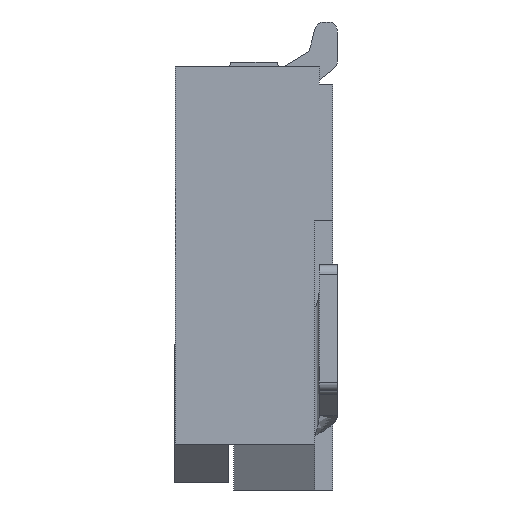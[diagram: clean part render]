
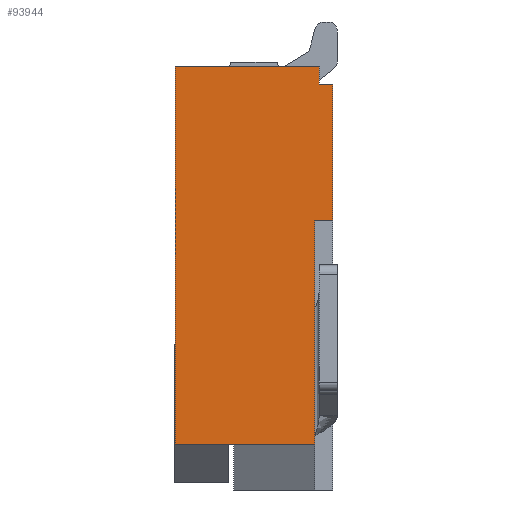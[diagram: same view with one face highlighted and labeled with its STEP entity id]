
A CAD part, left-side view. The second image highlights one B-rep face of the part: STEP entity #93944.
In plain terms, the highlighted planar face has unit normal (-1, 0, 0).
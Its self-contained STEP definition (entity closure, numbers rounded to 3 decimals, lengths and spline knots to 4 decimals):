
#7943=DIRECTION('',(0.,0.,1.));
#7944=VECTOR('',#7943,1.5);
#7945=CARTESIAN_POINT('',(-22.15,-0.875,0.15));
#7946=LINE('',#7945,#7944);
#21211=DIRECTION('',(0.,0.,1.));
#21212=VECTOR('',#21211,2.5);
#21213=CARTESIAN_POINT('',(-22.15,-0.675,-2.35));
#21214=LINE('',#21213,#21212);
#21227=DIRECTION('',(0.,0.,1.));
#21228=VECTOR('',#21227,4.2);
#21229=CARTESIAN_POINT('',(-22.15,0.875,-2.35));
#21230=LINE('',#21229,#21228);
#21231=DIRECTION('',(0.,-1.,0.));
#21232=VECTOR('',#21231,1.6);
#21233=CARTESIAN_POINT('',(-22.15,0.875,1.85));
#21234=LINE('',#21233,#21232);
#21235=DIRECTION('',(0.,-1.,0.));
#21236=VECTOR('',#21235,0.15);
#21237=CARTESIAN_POINT('',(-22.15,-0.725,1.65));
#21238=LINE('',#21237,#21236);
#21239=DIRECTION('',(0.,-1.,0.));
#21240=VECTOR('',#21239,1.55);
#21241=CARTESIAN_POINT('',(-22.15,0.875,-2.35));
#21242=LINE('',#21241,#21240);
#21933=DIRECTION('',(0.,0.,1.));
#21934=VECTOR('',#21933,0.2);
#21935=CARTESIAN_POINT('',(-22.15,-0.725,1.65));
#21936=LINE('',#21935,#21934);
#21949=DIRECTION('',(0.,-1.,0.));
#21950=VECTOR('',#21949,0.2);
#21951=CARTESIAN_POINT('',(-22.15,-0.675,0.15));
#21952=LINE('',#21951,#21950);
#57197=CARTESIAN_POINT('',(-22.15,0.875,1.85));
#57199=VERTEX_POINT('',#57197);
#57200=CARTESIAN_POINT('',(-22.15,0.875,-2.35));
#57201=VERTEX_POINT('',#57200);
#57446=CARTESIAN_POINT('',(-22.15,-0.725,1.85));
#57447=VERTEX_POINT('',#57446);
#57866=CARTESIAN_POINT('',(-22.15,-0.675,-2.35));
#57867=VERTEX_POINT('',#57866);
#57878=CARTESIAN_POINT('',(-22.15,-0.725,1.65));
#57879=VERTEX_POINT('',#57878);
#57880=CARTESIAN_POINT('',(-22.15,-0.875,1.65));
#57881=VERTEX_POINT('',#57880);
#57882=CARTESIAN_POINT('',(-22.15,-0.875,0.15));
#57883=VERTEX_POINT('',#57882);
#57884=CARTESIAN_POINT('',(-22.15,-0.675,0.15));
#57885=VERTEX_POINT('',#57884);
#93926=CARTESIAN_POINT('',(-22.15,0.,-0.25));
#93927=DIRECTION('',(1.,0.,0.));
#93928=DIRECTION('',(0.,0.,1.));
#93929=AXIS2_PLACEMENT_3D('',#93926,#93927,#93928);
#93930=PLANE('',#93929);
#93932=ORIENTED_EDGE('',*,*,#93931,.F.);
#93933=ORIENTED_EDGE('',*,*,#82492,.T.);
#93934=ORIENTED_EDGE('',*,*,#82742,.T.);
#93936=ORIENTED_EDGE('',*,*,#93935,.F.);
#93937=ORIENTED_EDGE('',*,*,#82996,.T.);
#93938=ORIENTED_EDGE('',*,*,#83415,.F.);
#93940=ORIENTED_EDGE('',*,*,#93939,.F.);
#93941=ORIENTED_EDGE('',*,*,#93907,.F.);
#93942=EDGE_LOOP('',(#93932,#93933,#93934,#93936,#93937,#93938,#93940,#93941));
#93943=FACE_OUTER_BOUND('',#93942,.F.);
#82492=EDGE_CURVE('',#57201,#57199,#21230,.T.);
#82742=EDGE_CURVE('',#57199,#57447,#21234,.T.);
#82996=EDGE_CURVE('',#57879,#57881,#21238,.T.);
#83415=EDGE_CURVE('',#57883,#57881,#7946,.T.);
#93907=EDGE_CURVE('',#57867,#57885,#21214,.T.);
#93931=EDGE_CURVE('',#57201,#57867,#21242,.T.);
#93935=EDGE_CURVE('',#57879,#57447,#21936,.T.);
#93939=EDGE_CURVE('',#57885,#57883,#21952,.T.);
#93944=ADVANCED_FACE('',(#93943),#93930,.F.);
